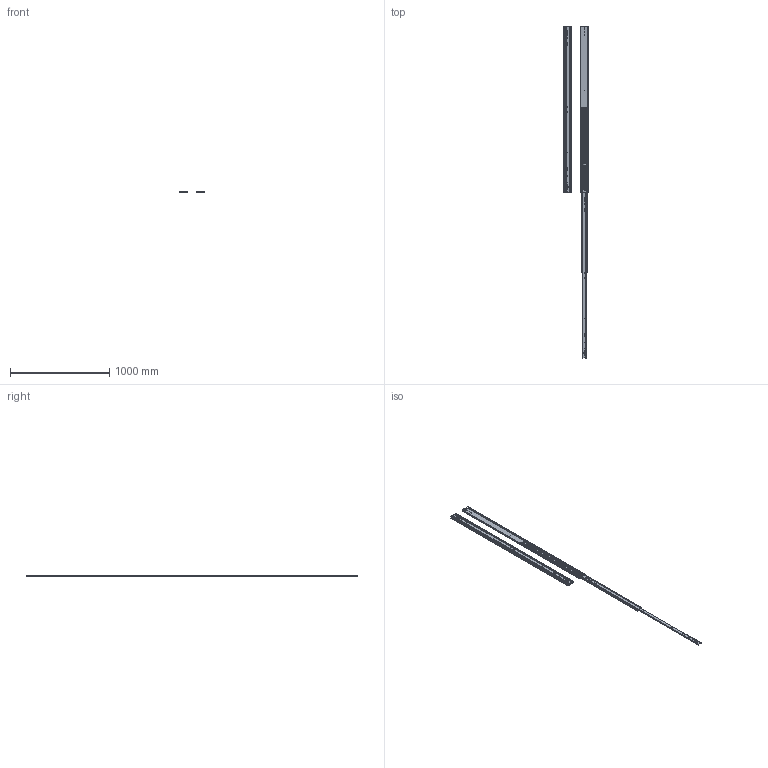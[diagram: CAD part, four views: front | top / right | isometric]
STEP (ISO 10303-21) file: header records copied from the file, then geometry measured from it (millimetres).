
FILE_DESCRIPTION((''),'2;1');
FILE_NAME('ASSEM1_1_ASM','2026-04-08T10:30:50',('T260078'),(''),'CREO PARAMETRIC BY PTC INC, 2025123','CREO PARAMETRIC BY PTC INC, 2025123','');
FILE_SCHEMA(('CONFIG_CONTROL_DESIGN','SHAPE_APPEARANCE_LAYERS_GROUPS'));
Length unit declared in the file: millimetre
Products named in the file (6): 76J01-66_X2_540B_X0_-M; 76J01-66_X2_540B_X0_-I; 76J01-66_X2_540B_X0_-O; 76J01-66_X2_540_X0__ASM; 76J01-66_X2_540B_X0_-_X2_5C5595_ASM; ASSEM1_1_ASM
Assembly tree (8 placements, depth 3):
  ASSEM1_1_ASM
    76J01-66_X2_540_X0__ASM
      76J01-66_X2_540B_X0_-M
      76J01-66_X2_540B_X0_-I
      76J01-66_X2_540B_X0_-O
    76J01-66_X2_540B_X0_-_X2_5C5595_ASM
      76J01-66_X2_540B_X0_-M
      76J01-66_X2_540B_X0_-I
      76J01-66_X2_540B_X0_-O
Bounding box: 245.44 x 3352.8 x 19.3 mm (x, y, z)
Volume: 2082170.4 mm3; surface area: 1853151.9 mm2
Topology: 6 solids, 6 shells, 380 faces, 1228 edges, 848 vertices
Faces by surface type: cylinder 212, plane 168
Entity records: 8393 total; most frequent: CARTESIAN_POINT 1338, DIRECTION 1244, ORIENTED_EDGE 1228, EDGE_CURVE 614, AXIS2_PLACEMENT_3D 444, VERTEX_POINT 424, VECTOR 356, LINE 356
